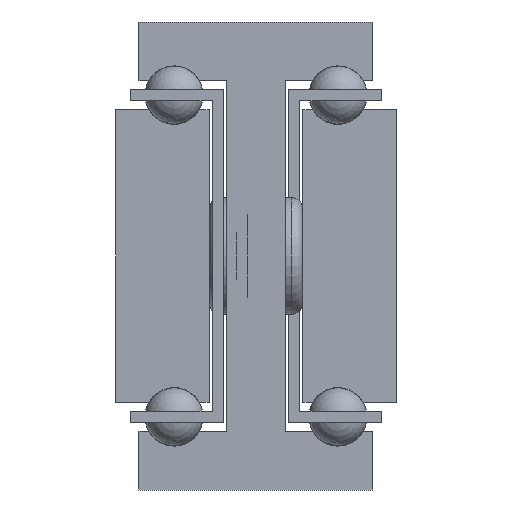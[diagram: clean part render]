
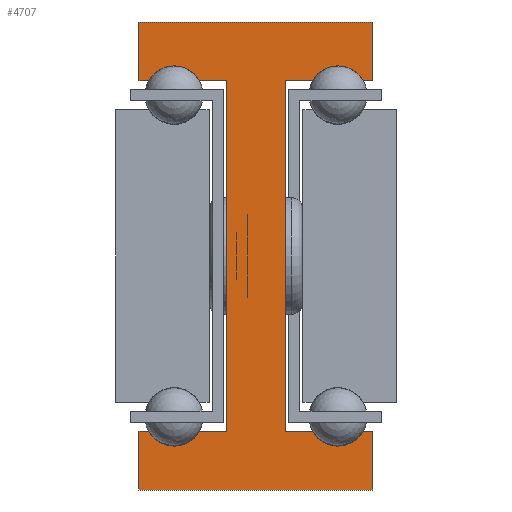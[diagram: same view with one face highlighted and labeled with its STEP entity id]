
A CAD part, front view. The second image highlights one B-rep face of the part: STEP entity #4707.
In plain terms, the highlighted planar face has unit normal (0, -1, 0).
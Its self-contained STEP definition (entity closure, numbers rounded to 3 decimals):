
#196=LINE('',#6808,#674);
#199=LINE('',#6814,#677);
#202=LINE('',#6820,#680);
#206=LINE('',#6832,#684);
#209=LINE('',#6838,#687);
#212=LINE('',#6844,#690);
#216=LINE('',#6856,#694);
#219=LINE('',#6862,#697);
#222=LINE('',#6868,#700);
#225=LINE('',#6874,#703);
#228=LINE('',#6880,#706);
#232=LINE('',#6892,#710);
#235=LINE('',#6898,#713);
#238=LINE('',#6904,#716);
#242=LINE('',#6916,#720);
#245=LINE('',#6920,#723);
#674=VECTOR('',#5500,1.);
#677=VECTOR('',#5505,1.);
#680=VECTOR('',#5510,1.);
#684=VECTOR('',#5522,1.);
#687=VECTOR('',#5527,1.);
#690=VECTOR('',#5532,1.);
#694=VECTOR('',#5544,1.);
#697=VECTOR('',#5549,1.);
#700=VECTOR('',#5554,1.);
#703=VECTOR('',#5559,1.);
#706=VECTOR('',#5564,1.);
#710=VECTOR('',#5576,1.);
#713=VECTOR('',#5581,1.);
#716=VECTOR('',#5586,1.);
#720=VECTOR('',#5598,1.);
#723=VECTOR('',#5603,1.);
#1155=PLANE('',#5063);
#1483=FACE_OUTER_BOUND('',#1783,.T.);
#1783=EDGE_LOOP('',(#3540,#3541,#3542,#3543,#3544,#3545,#3546,#3547,#3548,
#3549,#3550,#3551,#3552,#3553,#3554,#3555,#3556,#3557,#3558,#3559));
#2157=CIRCLE('',#5039,2.5);
#2159=CIRCLE('',#5045,2.5);
#2161=CIRCLE('',#5053,2.5);
#2163=CIRCLE('',#5059,2.5);
#2300=VERTEX_POINT('',#6805);
#2301=VERTEX_POINT('',#6807);
#2303=VERTEX_POINT('',#6813);
#2305=VERTEX_POINT('',#6819);
#2307=VERTEX_POINT('',#6825);
#2309=VERTEX_POINT('',#6831);
#2311=VERTEX_POINT('',#6837);
#2313=VERTEX_POINT('',#6843);
#2315=VERTEX_POINT('',#6849);
#2317=VERTEX_POINT('',#6855);
#2319=VERTEX_POINT('',#6861);
#2321=VERTEX_POINT('',#6867);
#2323=VERTEX_POINT('',#6873);
#2325=VERTEX_POINT('',#6879);
#2327=VERTEX_POINT('',#6885);
#2329=VERTEX_POINT('',#6891);
#2331=VERTEX_POINT('',#6897);
#2333=VERTEX_POINT('',#6903);
#2335=VERTEX_POINT('',#6909);
#2337=VERTEX_POINT('',#6915);
#2786=EDGE_CURVE('',#2301,#2300,#196,.T.);
#2789=EDGE_CURVE('',#2303,#2301,#199,.T.);
#2792=EDGE_CURVE('',#2305,#2303,#202,.T.);
#2795=EDGE_CURVE('',#2307,#2305,#2157,.T.);
#2798=EDGE_CURVE('',#2309,#2307,#206,.T.);
#2801=EDGE_CURVE('',#2311,#2309,#209,.T.);
#2804=EDGE_CURVE('',#2313,#2311,#212,.T.);
#2807=EDGE_CURVE('',#2315,#2313,#2159,.T.);
#2810=EDGE_CURVE('',#2317,#2315,#216,.T.);
#2813=EDGE_CURVE('',#2319,#2317,#219,.T.);
#2816=EDGE_CURVE('',#2321,#2319,#222,.T.);
#2819=EDGE_CURVE('',#2323,#2321,#225,.T.);
#2822=EDGE_CURVE('',#2325,#2323,#228,.T.);
#2825=EDGE_CURVE('',#2327,#2325,#2161,.T.);
#2828=EDGE_CURVE('',#2329,#2327,#232,.T.);
#2831=EDGE_CURVE('',#2331,#2329,#235,.T.);
#2834=EDGE_CURVE('',#2333,#2331,#238,.T.);
#2837=EDGE_CURVE('',#2335,#2333,#2163,.T.);
#2840=EDGE_CURVE('',#2337,#2335,#242,.T.);
#2843=EDGE_CURVE('',#2300,#2337,#245,.T.);
#3540=ORIENTED_EDGE('',*,*,#2843,.T.);
#3541=ORIENTED_EDGE('',*,*,#2840,.T.);
#3542=ORIENTED_EDGE('',*,*,#2837,.T.);
#3543=ORIENTED_EDGE('',*,*,#2834,.T.);
#3544=ORIENTED_EDGE('',*,*,#2831,.T.);
#3545=ORIENTED_EDGE('',*,*,#2828,.T.);
#3546=ORIENTED_EDGE('',*,*,#2825,.T.);
#3547=ORIENTED_EDGE('',*,*,#2822,.T.);
#3548=ORIENTED_EDGE('',*,*,#2819,.T.);
#3549=ORIENTED_EDGE('',*,*,#2816,.T.);
#3550=ORIENTED_EDGE('',*,*,#2813,.T.);
#3551=ORIENTED_EDGE('',*,*,#2810,.T.);
#3552=ORIENTED_EDGE('',*,*,#2807,.T.);
#3553=ORIENTED_EDGE('',*,*,#2804,.T.);
#3554=ORIENTED_EDGE('',*,*,#2801,.T.);
#3555=ORIENTED_EDGE('',*,*,#2798,.T.);
#3556=ORIENTED_EDGE('',*,*,#2795,.T.);
#3557=ORIENTED_EDGE('',*,*,#2792,.T.);
#3558=ORIENTED_EDGE('',*,*,#2789,.T.);
#3559=ORIENTED_EDGE('',*,*,#2786,.T.);
#4707=ADVANCED_FACE('',(#1483),#1155,.T.);
#5039=AXIS2_PLACEMENT_3D('',#6826,#5516,#5517);
#5045=AXIS2_PLACEMENT_3D('',#6850,#5538,#5539);
#5053=AXIS2_PLACEMENT_3D('',#6886,#5570,#5571);
#5059=AXIS2_PLACEMENT_3D('',#6910,#5592,#5593);
#5063=AXIS2_PLACEMENT_3D('',#6922,#5606,#5607);
#5500=DIRECTION('',(-1.,0.,0.));
#5505=DIRECTION('',(0.,0.,1.));
#5510=DIRECTION('',(1.,0.,0.));
#5516=DIRECTION('center_axis',(0.,1.,0.));
#5517=DIRECTION('ref_axis',(0.866,0.,0.5));
#5522=DIRECTION('',(1.,0.,0.));
#5527=DIRECTION('',(0.,0.,1.));
#5532=DIRECTION('',(-1.,0.,0.));
#5538=DIRECTION('center_axis',(0.,1.,0.));
#5539=DIRECTION('ref_axis',(-0.866,0.,-0.5));
#5544=DIRECTION('',(-1.,0.,0.));
#5549=DIRECTION('',(0.,0.,1.));
#5554=DIRECTION('',(1.,0.,0.));
#5559=DIRECTION('',(0.,0.,-1.));
#5564=DIRECTION('',(-1.,0.,0.));
#5570=DIRECTION('center_axis',(0.,1.,0.));
#5571=DIRECTION('ref_axis',(-0.866,0.,-0.5));
#5576=DIRECTION('',(-1.,0.,0.));
#5581=DIRECTION('',(0.,0.,-1.));
#5586=DIRECTION('',(1.,0.,0.));
#5592=DIRECTION('center_axis',(0.,1.,0.));
#5593=DIRECTION('ref_axis',(0.866,0.,0.5));
#5598=DIRECTION('',(1.,0.,0.));
#5603=DIRECTION('',(0.,0.,-1.));
#5606=DIRECTION('center_axis',(0.,-1.,0.));
#5607=DIRECTION('ref_axis',(1.,0.,0.));
#6805=CARTESIAN_POINT('',(957.079,1164.775,220.));
#6807=CARTESIAN_POINT('',(977.079,1164.775,220.));
#6808=CARTESIAN_POINT('',(957.079,1164.775,220.));
#6813=CARTESIAN_POINT('',(977.079,1164.775,215.));
#6814=CARTESIAN_POINT('',(977.079,1164.775,220.));
#6819=CARTESIAN_POINT('',(976.244,1164.775,215.));
#6820=CARTESIAN_POINT('',(977.079,1164.775,215.));
#6825=CARTESIAN_POINT('',(971.914,1164.775,215.));
#6826=CARTESIAN_POINT('Origin',(974.079,1164.775,213.75));
#6831=CARTESIAN_POINT('',(969.579,1164.775,215.));
#6832=CARTESIAN_POINT('',(971.914,1164.775,215.));
#6837=CARTESIAN_POINT('',(969.579,1164.775,185.));
#6838=CARTESIAN_POINT('',(969.579,1164.775,215.));
#6843=CARTESIAN_POINT('',(971.914,1164.775,185.));
#6844=CARTESIAN_POINT('',(969.579,1164.775,185.));
#6849=CARTESIAN_POINT('',(976.244,1164.775,185.));
#6850=CARTESIAN_POINT('Origin',(974.079,1164.775,186.25));
#6855=CARTESIAN_POINT('',(977.079,1164.775,185.));
#6856=CARTESIAN_POINT('',(976.244,1164.775,185.));
#6861=CARTESIAN_POINT('',(977.079,1164.775,180.));
#6862=CARTESIAN_POINT('',(977.079,1164.775,185.));
#6867=CARTESIAN_POINT('',(957.079,1164.775,180.));
#6868=CARTESIAN_POINT('',(977.079,1164.775,180.));
#6873=CARTESIAN_POINT('',(957.079,1164.775,185.));
#6874=CARTESIAN_POINT('',(957.079,1164.775,180.));
#6879=CARTESIAN_POINT('',(957.914,1164.775,185.));
#6880=CARTESIAN_POINT('',(957.079,1164.775,185.));
#6885=CARTESIAN_POINT('',(962.244,1164.775,185.));
#6886=CARTESIAN_POINT('Origin',(960.079,1164.775,186.25));
#6891=CARTESIAN_POINT('',(964.579,1164.775,185.));
#6892=CARTESIAN_POINT('',(962.244,1164.775,185.));
#6897=CARTESIAN_POINT('',(964.579,1164.775,215.));
#6898=CARTESIAN_POINT('',(964.579,1164.775,185.));
#6903=CARTESIAN_POINT('',(962.244,1164.775,215.));
#6904=CARTESIAN_POINT('',(964.579,1164.775,215.));
#6909=CARTESIAN_POINT('',(957.914,1164.775,215.));
#6910=CARTESIAN_POINT('Origin',(960.079,1164.775,213.75));
#6915=CARTESIAN_POINT('',(957.079,1164.775,215.));
#6916=CARTESIAN_POINT('',(957.914,1164.775,215.));
#6920=CARTESIAN_POINT('',(957.079,1164.775,215.));
#6922=CARTESIAN_POINT('Origin',(967.079,1164.775,200.));
